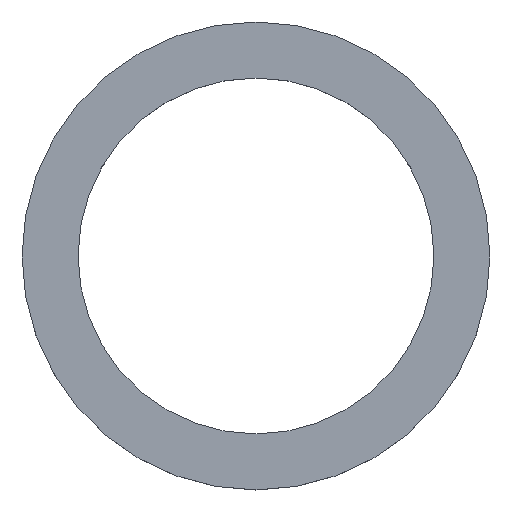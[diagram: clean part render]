
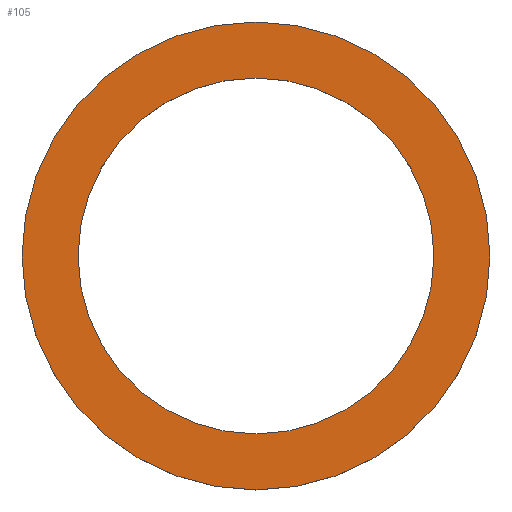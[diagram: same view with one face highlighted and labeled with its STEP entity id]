
A CAD part, top view. The second image highlights one B-rep face of the part: STEP entity #105.
In plain terms, the highlighted planar face has unit normal (0, 0, 1).
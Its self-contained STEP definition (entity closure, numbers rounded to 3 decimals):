
#21 = EDGE_CURVE('',#22,#22,#24,.T.);
#22 = VERTEX_POINT('',#23);
#23 = CARTESIAN_POINT('',(33.,0.,5.));
#24 = SURFACE_CURVE('',#25,(#30,#42),.PCURVE_S1.);
#25 = CIRCLE('',#26,33.);
#26 = AXIS2_PLACEMENT_3D('',#27,#28,#29);
#27 = CARTESIAN_POINT('',(0.,0.,5.));
#28 = DIRECTION('',(0.,0.,1.));
#29 = DIRECTION('',(1.,0.,-0.));
#30 = PCURVE('',#31,#36);
#31 = CYLINDRICAL_SURFACE('',#32,33.);
#32 = AXIS2_PLACEMENT_3D('',#33,#34,#35);
#33 = CARTESIAN_POINT('',(0.,0.,0.));
#34 = DIRECTION('',(0.,0.,1.));
#35 = DIRECTION('',(1.,0.,-0.));
#36 = DEFINITIONAL_REPRESENTATION('',(#37),#41);
#37 = LINE('',#38,#39);
#38 = CARTESIAN_POINT('',(0.,5.));
#39 = VECTOR('',#40,1.);
#40 = DIRECTION('',(1.,0.));
#41 = ( GEOMETRIC_REPRESENTATION_CONTEXT(2) 
PARAMETRIC_REPRESENTATION_CONTEXT() REPRESENTATION_CONTEXT('2D SPACE',''
  ) );
#42 = PCURVE('',#43,#48);
#43 = PLANE('',#44);
#44 = AXIS2_PLACEMENT_3D('',#45,#46,#47);
#45 = CARTESIAN_POINT('',(0.,0.,5.));
#46 = DIRECTION('',(0.,0.,1.));
#47 = DIRECTION('',(1.,0.,-0.));
#48 = DEFINITIONAL_REPRESENTATION('',(#49),#53);
#49 = CIRCLE('',#50,33.);
#50 = AXIS2_PLACEMENT_2D('',#51,#52);
#51 = CARTESIAN_POINT('',(0.,0.));
#52 = DIRECTION('',(1.,0.));
#53 = ( GEOMETRIC_REPRESENTATION_CONTEXT(2) 
PARAMETRIC_REPRESENTATION_CONTEXT() REPRESENTATION_CONTEXT('2D SPACE',''
  ) );
#105 = ADVANCED_FACE('',(#106,#109),#43,.T.);
#106 = FACE_BOUND('',#107,.T.);
#107 = EDGE_LOOP('',(#108));
#108 = ORIENTED_EDGE('',*,*,#21,.T.);
#109 = FACE_BOUND('',#110,.T.);
#110 = EDGE_LOOP('',(#111));
#111 = ORIENTED_EDGE('',*,*,#112,.F.);
#112 = EDGE_CURVE('',#113,#113,#115,.T.);
#113 = VERTEX_POINT('',#114);
#114 = CARTESIAN_POINT('',(25.1,0.,5.));
#115 = SURFACE_CURVE('',#116,(#121,#128),.PCURVE_S1.);
#116 = CIRCLE('',#117,25.1);
#117 = AXIS2_PLACEMENT_3D('',#118,#119,#120);
#118 = CARTESIAN_POINT('',(0.,0.,5.));
#119 = DIRECTION('',(0.,0.,1.));
#120 = DIRECTION('',(1.,0.,-0.));
#121 = PCURVE('',#43,#122);
#122 = DEFINITIONAL_REPRESENTATION('',(#123),#127);
#123 = CIRCLE('',#124,25.1);
#124 = AXIS2_PLACEMENT_2D('',#125,#126);
#125 = CARTESIAN_POINT('',(0.,0.));
#126 = DIRECTION('',(1.,0.));
#127 = ( GEOMETRIC_REPRESENTATION_CONTEXT(2) 
PARAMETRIC_REPRESENTATION_CONTEXT() REPRESENTATION_CONTEXT('2D SPACE',''
  ) );
#128 = PCURVE('',#129,#134);
#129 = CYLINDRICAL_SURFACE('',#130,25.1);
#130 = AXIS2_PLACEMENT_3D('',#131,#132,#133);
#131 = CARTESIAN_POINT('',(0.,0.,-1.));
#132 = DIRECTION('',(0.,0.,1.));
#133 = DIRECTION('',(1.,0.,-0.));
#134 = DEFINITIONAL_REPRESENTATION('',(#135),#139);
#135 = LINE('',#136,#137);
#136 = CARTESIAN_POINT('',(0.,6.));
#137 = VECTOR('',#138,1.);
#138 = DIRECTION('',(1.,0.));
#139 = ( GEOMETRIC_REPRESENTATION_CONTEXT(2) 
PARAMETRIC_REPRESENTATION_CONTEXT() REPRESENTATION_CONTEXT('2D SPACE',''
  ) );
